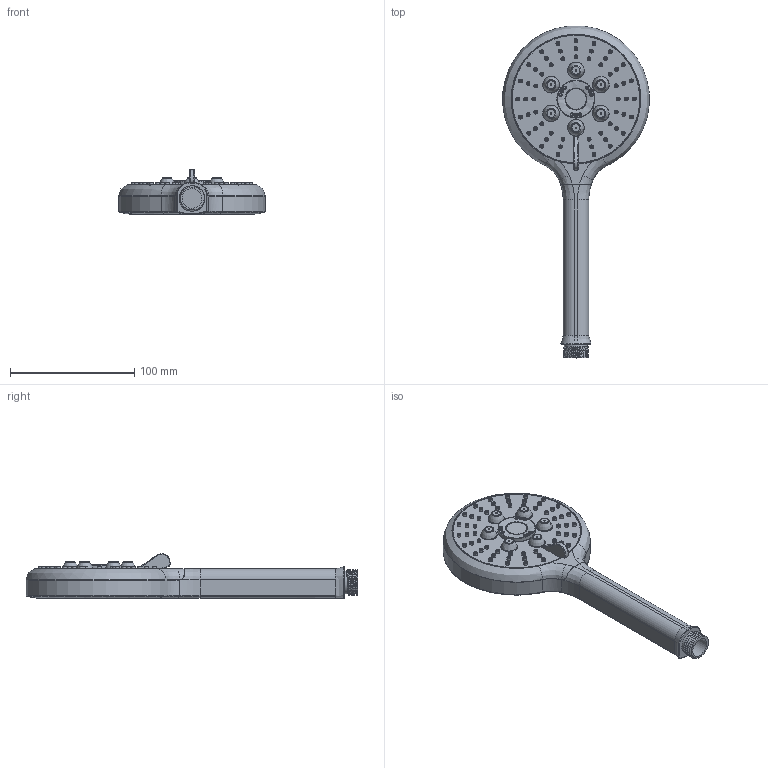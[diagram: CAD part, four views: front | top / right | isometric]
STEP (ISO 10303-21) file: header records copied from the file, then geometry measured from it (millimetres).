
FILE_DESCRIPTION(/* description */ (''),/* implementation_level */ '2;1');
FILE_NAME(/* name */ 'c:\worker\convert-fusion-r05\tmp\job-1\21\output\files\d9afd360-bfbf-4024-8e58-f8e071f2ec87\c7cf07e6-44ff-456a-bb89-3e6faebfa86e.stp',/* time_stamp */ '2020-07-02T07:02:26+00:00',/* author */ (''),/* organization */ (''),/* preprocessor_version */ 'ST-DEVELOPER v18.1',/* originating_system */ 'Autodesk Translation Framework v9.3.0.1241',/* authorisation */ '');
FILE_SCHEMA (('AUTOMOTIVE_DESIGN { 1 0 10303 214 3 1 1 }'));
Length unit declared in the file: millimetre
Products named in the file (1): !Ribbon-R
Bounding box: 117.6 x 266.71 x 35.75 mm (x, y, z)
Volume: 308543.6 mm3; surface area: 86236.9 mm2
Topology: 6 solids, 6 shells, 516 faces, 980 edges, 621 vertices
Faces by surface type: bspline 179, cylinder 170, plane 167
Full cylindrical faces by diameter (mm): 0.872 x57, 1.176 x6, 1.527 x9, 2.727 x9, 3.079 x57, 15.911 x1, 16.903 x2, 18.473 x4, 29.903 x1, 30.103 x1, 102.659 x1, 103.659 x1
Entity records: 24539 total; most frequent: CARTESIAN_POINT 15679, ORIENTED_EDGE 1960, DIRECTION 1563, EDGE_CURVE 980, AXIS2_PLACEMENT_3D 683, EDGE_LOOP 665, VERTEX_POINT 621, FACE_OUTER_BOUND 516
